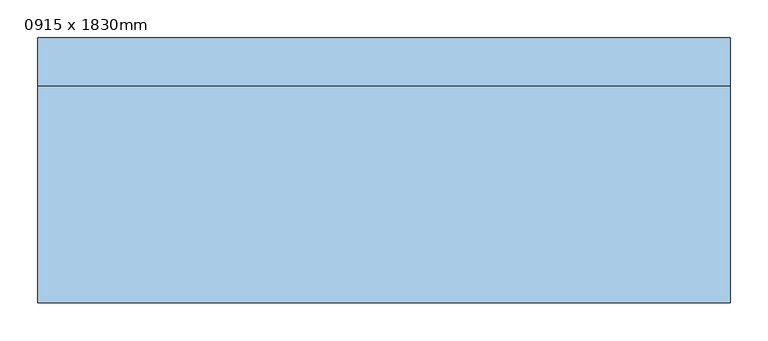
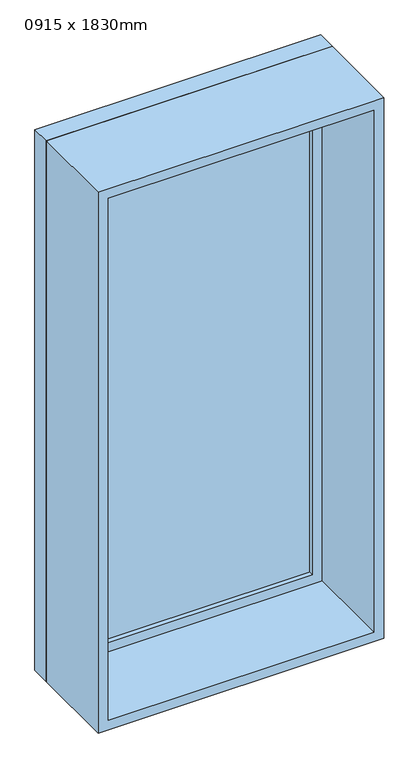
"""IFC4 building model written with IfcOpenShell, lengths in millimetres: window geometry, 固定 : 0915 x 1830mm."""

import ifcopenshell
import ifcopenshell.guid

model = None  # the IFC model being written
_history = None  # IfcOwnerHistory: only IFC2X3 demands one
_inside = {}  # id of a spatial element -> (the spatial element, [elements in it])
_under = {}  # id of a project, library or spatial element -> (it, [spatial elements below it])
_declared = {}  # id of a project -> (the project, [libraries it declares])
_typed = {}  # id of a type object -> (the type object, [elements of that type])
_made_of = {}  # id of a material, layer set ... -> (it, [elements and type objects made of it])


def new_model(schema):
    """Start an empty IFC model of exactly this schema.

    Asked for "IFC4X3", IfcOpenShell would pick the latest addendum, in which some entities
    have other attributes; the version numbers below select the first issue.
    IFC2X3 requires an IfcOwnerHistory on every rooted entity: one is made here for all.
    """
    global model, _history
    if schema == "IFC4X3":
        model = ifcopenshell.file(schema_version=(4, 3, 0, 0))
    else:
        model = ifcopenshell.file(schema=schema)
    _inside.clear()
    _under.clear()
    _declared.clear()
    _typed.clear()
    _made_of.clear()
    _history = None
    if model.schema == "IFC2X3":
        org = make("IfcOrganization", Name="unknown")
        user = make(
            "IfcPersonAndOrganization",
            ThePerson=make("IfcPerson", FamilyName="unknown"),
            TheOrganization=org,
        )
        app = make(
            "IfcApplication",
            ApplicationDeveloper=org,
            Version="unknown",
            ApplicationFullName="unknown",
            ApplicationIdentifier="unknown",
        )
        _history = make(
            "IfcOwnerHistory",
            OwningUser=user,
            OwningApplication=app,
            ChangeAction="ADDED",
            CreationDate=0,
        )
    return model


def make(cls, **values):
    """One entity of the class cls with the attributes given. An attribute that is None is left unset."""
    return model.create_entity(
        cls, **{name: value for name, value in values.items() if value is not None}
    )


def rooted(cls, **values):
    """An entity with a GlobalId (a new one), such as an element, a storey or a relation."""
    return make(cls, GlobalId=ifcopenshell.guid.new(), OwnerHistory=_history, **values)


def si_unit(unit_type, name, prefix=None):
    """IfcSIUnit, for example si_unit("LENGTHUNIT", "METRE", prefix="MILLI")."""
    return make("IfcSIUnit", UnitType=unit_type, Prefix=prefix, Name=name)


def assignment(units):
    """IfcUnitAssignment: the units of a project."""
    return None if units is None else make("IfcUnitAssignment", Units=units)


def point(xyz):
    """IfcCartesianPoint."""
    return None if xyz is None else make("IfcCartesianPoint", Coordinates=xyz)


def direction(xyz):
    """IfcDirection."""
    return None if xyz is None else make("IfcDirection", DirectionRatios=xyz)


def frame(location, z_axis=None, x_axis=None):
    """IfcAxis2Placement3D, a coordinate frame: its origin and axes. An axis left out is left unset."""
    return make(
        "IfcAxis2Placement3D",
        Location=point(location),
        Axis=direction(z_axis),
        RefDirection=direction(x_axis),
    )


def origin():
    """The frame at (0, 0, 0) with its axes left unset."""
    return frame((0.0, 0.0, 0.0))


def place(relative_to, where):
    """IfcLocalPlacement: puts the frame where relative to a parent placement (None: the world)."""
    return make(
        "IfcLocalPlacement", PlacementRelTo=relative_to, RelativePlacement=where
    )


def context(
    kind, dimensions, precision=None, world=None, true_north=None, identifier=None
):
    """IfcGeometricRepresentationContext, for example the 3D "Model" context."""
    return make(
        "IfcGeometricRepresentationContext",
        ContextIdentifier=identifier,
        ContextType=kind,
        CoordinateSpaceDimension=dimensions,
        Precision=precision,
        WorldCoordinateSystem=world,
        TrueNorth=true_north,
    )


def project(units=None, contexts=None):
    """IfcProject with its units and contexts."""
    return rooted(
        "IfcProject",
        Name="project",
        RepresentationContexts=contexts,
        UnitsInContext=assignment(units),
    )


def spatial(cls, under=None, at=None, **own):
    """A site, building, storey or space (cls), placed at a placement, below another one or the project."""
    s = rooted(cls, ObjectPlacement=at, **own)
    if under is not None:
        _under.setdefault(under.id(), (under, []))[1].append(s)
    return s


def polyline(points):
    """IfcPolyline through the points."""
    return make("IfcPolyline", Points=[point(p) for p in points])


def outline(outer, holes=None, kind="AREA"):
    """IfcArbitraryClosedProfileDef: a profile drawn as a closed curve; with holes, ...WithVoids."""
    if holes is None:
        return make("IfcArbitraryClosedProfileDef", ProfileType=kind, OuterCurve=outer)
    return make(
        "IfcArbitraryProfileDefWithVoids",
        ProfileType=kind,
        OuterCurve=outer,
        InnerCurves=holes,
    )


def extrude(swept, where, along, depth):
    """IfcExtrudedAreaSolid: the profile swept, set in the frame where, extruded along a direction by depth."""
    return make(
        "IfcExtrudedAreaSolid",
        SweptArea=swept,
        Position=where,
        ExtrudedDirection=direction(along),
        Depth=depth,
    )


def shape(context_of_items, identifier, shape_type, items):
    """IfcShapeRepresentation: the items that make up one representation, for example the "Body"."""
    return make(
        "IfcShapeRepresentation",
        ContextOfItems=context_of_items,
        RepresentationIdentifier=identifier,
        RepresentationType=shape_type,
        Items=items,
    )


def source(mapping_origin, context_of_items, identifier, shape_type, items):
    """IfcRepresentationMap: a shape defined once, which mapped items show again and again."""
    return make(
        "IfcRepresentationMap",
        MappingOrigin=mapping_origin,
        MappedRepresentation=shape(context_of_items, identifier, shape_type, items),
    )


def transform(
    local_origin,
    x_axis=None,
    y_axis=None,
    z_axis=None,
    scale=None,
    scale2=None,
    scale3=None,
    uniform=True,
):
    """IfcCartesianTransformationOperator3D, or its non-uniform kind. x_axis, y_axis, z_axis: its Axis1, 2, 3."""
    if uniform:
        return make(
            "IfcCartesianTransformationOperator3D",
            Axis1=direction(x_axis),
            Axis2=direction(y_axis),
            LocalOrigin=point(local_origin),
            Scale=scale,
            Axis3=direction(z_axis),
        )
    return make(
        "IfcCartesianTransformationOperator3DnonUniform",
        Axis1=direction(x_axis),
        Axis2=direction(y_axis),
        LocalOrigin=point(local_origin),
        Scale=scale,
        Axis3=direction(z_axis),
        Scale2=scale2,
        Scale3=scale3,
    )


def mapped(mapping_source, mapping_target):
    """IfcMappedItem: shows the shape of a source again, moved by a transform."""
    return make(
        "IfcMappedItem", MappingSource=mapping_source, MappingTarget=mapping_target
    )


def made_of(thing, what):
    """Note that an element or type object is made of a material, layer set ...; save() writes the relation."""
    if what is not None:
        _made_of.setdefault(what.id(), (what, []))[1].append(thing)
    return thing


def element(
    cls,
    number,
    at=None,
    inside=None,
    cuts=None,
    type_object=None,
    material=None,
    context=None,
    identifier="Body",
    shape_type=None,
    held_by="IfcProductDefinitionShape",
    body=None,
    shapes=None,
    **own,
):
    """One element of the class cls, such as IfcWall. Its Tag is "e" and its number.

    at: its placement. inside: the storey or other place that contains it. cuts: it is an
    opening in that element (IfcRelVoidsElement). A single representation is given by context,
    identifier, shape_type and body (its items); several are given by shapes. held_by: the class
    of the entity that holds the representations. save() writes the other relations.
    """
    e = rooted(cls, Tag="e%d" % number, ObjectPlacement=at, **own)
    if body is not None:
        shapes = [shape(context, identifier, shape_type, body)]
    if shapes is not None:
        e.Representation = make(held_by, Representations=shapes)
    if inside is not None:
        _inside.setdefault(inside.id(), (inside, []))[1].append(e)
    if cuts is not None:
        rooted(
            "IfcRelVoidsElement", RelatingBuildingElement=cuts, RelatedOpeningElement=e
        )
    if type_object is not None:
        _typed.setdefault(type_object.id(), (type_object, []))[1].append(e)
    return made_of(e, material)


def aggregate(whole, parts):
    """IfcRelAggregates: a whole, such as a stair, and the parts it consists of."""
    return rooted("IfcRelAggregates", RelatingObject=whole, RelatedObjects=parts)


def save(model, path):
    """Write the relations noted so far, then the file.

    IfcRelAggregates (storeys below a building ...), IfcRelContainedInSpatialStructure (elements
    in a storey), IfcRelDefinesByType, IfcRelAssociatesMaterial and IfcRelDeclares: one each for
    every whole, place, type object, material and project.
    """
    for whole, parts in _under.values():
        aggregate(whole, parts)
    for where, things in _inside.values():
        rooted(
            "IfcRelContainedInSpatialStructure",
            RelatedElements=things,
            RelatingStructure=where,
        )
    for kind, things in _typed.values():
        rooted("IfcRelDefinesByType", RelatedObjects=things, RelatingType=kind)
    for what, things in _made_of.values():
        rooted("IfcRelAssociatesMaterial", RelatedObjects=things, RelatingMaterial=what)
    for by, libraries in _declared.values():
        rooted("IfcRelDeclares", RelatingContext=by, RelatedDefinitions=libraries)
    model.write(path)


def window_0915_x_1830mm_e21fde83(model_context):
    return source(origin(), model_context, "Body", "SweptSolid", [
        extrude(outline(polyline([(-394.5, 153.0), (394.5, 153.0), (394.5, 141.0), (-394.5, 141.0), (-394.5, 153.0)])), frame((0.0, 0.0, 368.0), z_axis=(0.0, 0.0, 1.0), x_axis=(1.0, 0.0, 0.0)), (0.0, 0.0, 1.0), 1704.0),
        extrude(outline(polyline([(2116.0, -438.5), (324.0, -438.5), (324.0, 438.5), (2116.0, 438.5), (2116.0, -438.5)]), holes=[polyline([(2072.0, -394.5), (2072.0, 394.5), (368.0, 394.5), (368.0, -394.5), (2072.0, -394.5)])]), frame((0.0, 125.0, 0.0), z_axis=(0.0, 1.0, 0.0), x_axis=(0.0, 0.0, 1.0)), (0.0, 0.0, 1.0), 44.0),
        extrude(outline(polyline([(2135.0, -457.5), (305.0, -457.5), (305.0, 457.5), (2135.0, 457.5), (2135.0, -457.5)]), holes=[polyline([(2116.0, -438.5), (2116.0, 438.5), (324.0, 438.5), (324.0, -438.5), (2116.0, -438.5)])]), frame((0.0, 125.0, 0.0), z_axis=(0.0, 1.0, 0.0), x_axis=(0.0, 0.0, 1.0)), (0.0, 0.0, 1.0), 63.0),
        extrude(outline(polyline([(2135.0, -457.5), (305.0, -457.5), (305.0, 457.5), (2135.0, 457.5), (2135.0, -457.5)]), holes=[polyline([(2103.0, -425.5), (2103.0, 425.5), (337.0, 425.5), (337.0, -425.5), (2103.0, -425.5)])]), frame((0.0, -162.0, 0.0), z_axis=(0.0, 1.0, 0.0), x_axis=(0.0, 0.0, 1.0)), (0.0, 0.0, 1.0), 287.0),
    ])


if __name__ == "__main__":
    model = new_model("IFC4")
    model_context = context("Model", 3, world=origin())
    ifc_project = project(units=[si_unit("LENGTHUNIT", "METRE", prefix="MILLI")], contexts=[model_context])
    site = spatial("IfcSite", under=ifc_project)
    building = spatial("IfcBuilding", under=site)
    placement = place(None, origin())
    window_0915_x_1830mm_shape = window_0915_x_1830mm_e21fde83(model_context)
    element("IfcWindow", 1, ObjectType="固定 : 0915 x 1830mm", at=placement, inside=building, context=model_context, shape_type="MappedRepresentation", body=[
        mapped(window_0915_x_1830mm_shape, transform((0.0, 0.0, 0.0), x_axis=(1.0, 0.0, 0.0), y_axis=(0.0, 1.0, 0.0), z_axis=(0.0, 0.0, 1.0))),
    ])
    save(model, "model.ifc")
